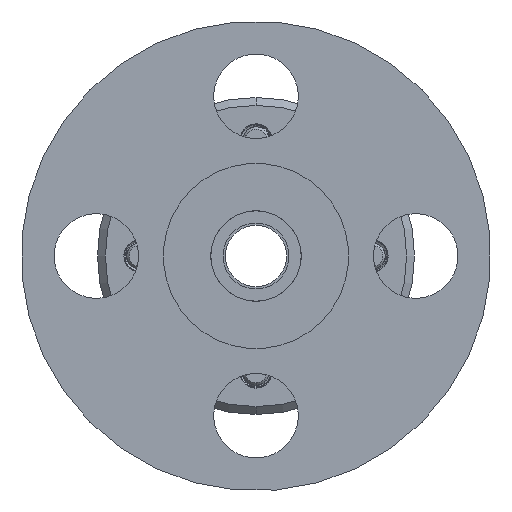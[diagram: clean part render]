
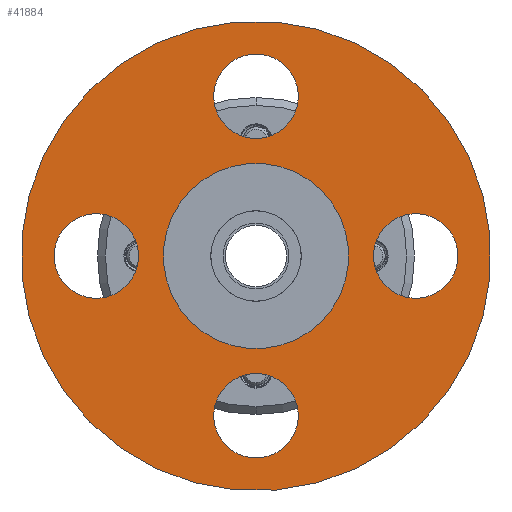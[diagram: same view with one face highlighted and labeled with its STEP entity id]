
A CAD part, front view. The second image highlights one B-rep face of the part: STEP entity #41884.
In plain terms, the highlighted planar face has unit normal (0, -1, 0).
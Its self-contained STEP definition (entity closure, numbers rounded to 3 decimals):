
#1542 = VERTEX_POINT ( 'NONE', #46189 ) ;
#5119 = AXIS2_PLACEMENT_3D ( 'NONE', #65738, #41642, #49123 ) ;
#6839 = EDGE_CURVE ( 'NONE', #101646, #36645, #31212, .T. ) ;
#7253 = CARTESIAN_POINT ( 'NONE',  ( 18.606, -36.524, 4.673 ) ) ;
#7531 = CARTESIAN_POINT ( 'NONE',  ( -11.62, -36.524, 34.899 ) ) ;
#8082 = ORIENTED_EDGE ( 'NONE', *, *, #38221, .F. ) ;
#9650 = ORIENTED_EDGE ( 'NONE', *, *, #46995, .F. ) ;
#10399 = CIRCLE ( 'NONE', #70694, 8.001 ) ;
#10949 = VERTEX_POINT ( 'NONE', #70968 ) ;
#11132 = DIRECTION ( 'NONE',  ( 0., -1., 0. ) ) ;
#12227 = CIRCLE ( 'NONE', #96356, 8.001 ) ;
#13539 = DIRECTION ( 'NONE',  ( 0.707, 0., -0.707 ) ) ;
#13616 = EDGE_LOOP ( 'NONE', ( #59236, #24873 ) ) ;
#15506 = AXIS2_PLACEMENT_3D ( 'NONE', #58091, #93070, #67263 ) ;
#15562 = AXIS2_PLACEMENT_3D ( 'NONE', #65823, #64685, #109331 ) ;
#16966 = DIRECTION ( 'NONE',  ( 0.707, 0., -0.707 ) ) ;
#17446 = CARTESIAN_POINT ( 'NONE',  ( 18.606, -36.524, 4.673 ) ) ;
#17449 = ORIENTED_EDGE ( 'NONE', *, *, #51668, .T. ) ;
#21360 = VERTEX_POINT ( 'NONE', #109256 ) ;
#21895 = EDGE_LOOP ( 'NONE', ( #17449, #30954 ) ) ;
#23648 = ORIENTED_EDGE ( 'NONE', *, *, #90119, .F. ) ;
#24466 = CIRCLE ( 'NONE', #75633, 8.001 ) ;
#24873 = ORIENTED_EDGE ( 'NONE', *, *, #49577, .F. ) ;
#24972 = CARTESIAN_POINT ( 'NONE',  ( -11.62, -36.524, 34.899 ) ) ;
#25541 = DIRECTION ( 'NONE',  ( 0.707, 0., -0.707 ) ) ;
#25679 = EDGE_CURVE ( 'NONE', #10949, #21360, #108729, .T. ) ;
#25909 = EDGE_LOOP ( 'NONE', ( #8082, #111161 ) ) ;
#26030 = CARTESIAN_POINT ( 'NONE',  ( 30.998, -36.524, 22.507 ) ) ;
#26100 = PLANE ( 'NONE',  #104776 ) ;
#26678 = FACE_BOUND ( 'NONE', #25909, .T. ) ;
#27172 = DIRECTION ( 'NONE',  ( 0.707, 0., -0.707 ) ) ;
#30954 = ORIENTED_EDGE ( 'NONE', *, *, #113075, .T. ) ;
#31212 = CIRCLE ( 'NONE', #45706, 8.001 ) ;
#36645 = VERTEX_POINT ( 'NONE', #80836 ) ;
#38221 = EDGE_CURVE ( 'NONE', #84229, #103913, #96322, .T. ) ;
#39179 = VERTEX_POINT ( 'NONE', #42859 ) ;
#41642 = DIRECTION ( 'NONE',  ( 0., -1., 0. ) ) ;
#41884 = ADVANCED_FACE ( 'NONE', ( #106192, #112566, #86798, #52418, #26678, #95434 ), #26100, .T. ) ;
#42508 = ORIENTED_EDGE ( 'NONE', *, *, #6839, .F. ) ;
#42859 = CARTESIAN_POINT ( 'NONE',  ( -12.825, -36.524, 66.33 ) ) ;
#42895 = CIRCLE ( 'NONE', #15506, 17.526 ) ;
#43017 = EDGE_CURVE ( 'NONE', #98546, #104495, #44395, .T. ) ;
#44395 = CIRCLE ( 'NONE', #59039, 8.001 ) ;
#44907 = ORIENTED_EDGE ( 'NONE', *, *, #59691, .F. ) ;
#45082 = EDGE_LOOP ( 'NONE', ( #23648, #44907 ) ) ;
#45706 = AXIS2_PLACEMENT_3D ( 'NONE', #50721, #67885, #77048 ) ;
#45733 = CARTESIAN_POINT ( 'NONE',  ( 18.606, -36.524, 34.899 ) ) ;
#46189 = CARTESIAN_POINT ( 'NONE',  ( 12.948, -36.524, 10.331 ) ) ;
#46995 = EDGE_CURVE ( 'NONE', #21360, #10949, #12227, .T. ) ;
#47416 = DIRECTION ( 'NONE',  ( 0., -1., 0. ) ) ;
#48637 = AXIS2_PLACEMENT_3D ( 'NONE', #45733, #64063, #81256 ) ;
#49116 = CARTESIAN_POINT ( 'NONE',  ( 54.489, -36.524, 29.242 ) ) ;
#49123 = DIRECTION ( 'NONE',  ( 0.707, 0., -0.707 ) ) ;
#49172 = DIRECTION ( 'NONE',  ( 0., -1., 0. ) ) ;
#49577 = EDGE_CURVE ( 'NONE', #104495, #98546, #24466, .T. ) ;
#50721 = CARTESIAN_POINT ( 'NONE',  ( 18.606, -36.524, 65.125 ) ) ;
#51459 = CARTESIAN_POINT ( 'NONE',  ( 6.213, -36.524, 47.292 ) ) ;
#51668 = EDGE_CURVE ( 'NONE', #67634, #39179, #52234, .T. ) ;
#52234 = CIRCLE ( 'NONE', #48637, 44.45 ) ;
#52418 = FACE_BOUND ( 'NONE', #13616, .T. ) ;
#56008 = CARTESIAN_POINT ( 'NONE',  ( 48.832, -36.524, 34.899 ) ) ;
#58091 = CARTESIAN_POINT ( 'NONE',  ( 18.606, -36.524, 34.899 ) ) ;
#58325 = CARTESIAN_POINT ( 'NONE',  ( 18.606, -36.524, 34.899 ) ) ;
#58767 = DIRECTION ( 'NONE',  ( 0., -1., 0. ) ) ;
#59039 = AXIS2_PLACEMENT_3D ( 'NONE', #56008, #47416, #65154 ) ;
#59236 = ORIENTED_EDGE ( 'NONE', *, *, #43017, .F. ) ;
#59691 = EDGE_CURVE ( 'NONE', #1542, #101066, #68103, .T. ) ;
#62784 = EDGE_CURVE ( 'NONE', #103913, #84229, #42895, .T. ) ;
#64063 = DIRECTION ( 'NONE',  ( 0., -1., 0. ) ) ;
#64685 = DIRECTION ( 'NONE',  ( 0., -1., 0. ) ) ;
#65154 = DIRECTION ( 'NONE',  ( 0.707, 0., -0.707 ) ) ;
#65738 = CARTESIAN_POINT ( 'NONE',  ( 18.606, -36.524, 34.899 ) ) ;
#65823 = CARTESIAN_POINT ( 'NONE',  ( 18.606, -36.524, 65.125 ) ) ;
#65827 = EDGE_LOOP ( 'NONE', ( #76226, #42508 ) ) ;
#67263 = DIRECTION ( 'NONE',  ( 0.707, 0., -0.707 ) ) ;
#67481 = DIRECTION ( 'NONE',  ( 0.707, 0., -0.707 ) ) ;
#67634 = VERTEX_POINT ( 'NONE', #85761 ) ;
#67885 = DIRECTION ( 'NONE',  ( 0., -1., 0. ) ) ;
#68103 = CIRCLE ( 'NONE', #111996, 8.001 ) ;
#69036 = DIRECTION ( 'NONE',  ( 0., -1., 0. ) ) ;
#69149 = EDGE_LOOP ( 'NONE', ( #9650, #105857 ) ) ;
#70694 = AXIS2_PLACEMENT_3D ( 'NONE', #17446, #11132, #27172 ) ;
#70968 = CARTESIAN_POINT ( 'NONE',  ( -17.278, -36.524, 40.557 ) ) ;
#74317 = CARTESIAN_POINT ( 'NONE',  ( 12.948, -36.524, 70.783 ) ) ;
#74833 = CIRCLE ( 'NONE', #5119, 44.45 ) ;
#75633 = AXIS2_PLACEMENT_3D ( 'NONE', #109110, #91993, #13539 ) ;
#76226 = ORIENTED_EDGE ( 'NONE', *, *, #93284, .F. ) ;
#77048 = DIRECTION ( 'NONE',  ( 0.707, 0., -0.707 ) ) ;
#77980 = AXIS2_PLACEMENT_3D ( 'NONE', #58325, #49172, #67481 ) ;
#78771 = DIRECTION ( 'NONE',  ( 0.707, 0., -0.707 ) ) ;
#78785 = CARTESIAN_POINT ( 'NONE',  ( 18.606, -36.524, 34.899 ) ) ;
#78935 = CARTESIAN_POINT ( 'NONE',  ( 24.263, -36.524, -0.984 ) ) ;
#80836 = CARTESIAN_POINT ( 'NONE',  ( 24.263, -36.524, 59.468 ) ) ;
#81256 = DIRECTION ( 'NONE',  ( 0.707, 0., -0.707 ) ) ;
#82556 = CARTESIAN_POINT ( 'NONE',  ( 43.174, -36.524, 40.557 ) ) ;
#84229 = VERTEX_POINT ( 'NONE', #51459 ) ;
#85761 = CARTESIAN_POINT ( 'NONE',  ( 50.036, -36.524, 3.468 ) ) ;
#86798 = FACE_BOUND ( 'NONE', #45082, .T. ) ;
#88692 = CIRCLE ( 'NONE', #15562, 8.001 ) ;
#90119 = EDGE_CURVE ( 'NONE', #101066, #1542, #10399, .T. ) ;
#91993 = DIRECTION ( 'NONE',  ( 0., -1., 0. ) ) ;
#93070 = DIRECTION ( 'NONE',  ( 0., -1., 0. ) ) ;
#93284 = EDGE_CURVE ( 'NONE', #36645, #101646, #88692, .T. ) ;
#95161 = DIRECTION ( 'NONE',  ( 0., -1., 0. ) ) ;
#95434 = FACE_OUTER_BOUND ( 'NONE', #21895, .T. ) ;
#95701 = DIRECTION ( 'NONE',  ( 0.707, 0., -0.707 ) ) ;
#95979 = AXIS2_PLACEMENT_3D ( 'NONE', #7531, #95161, #95701 ) ;
#96322 = CIRCLE ( 'NONE', #77980, 17.526 ) ;
#96356 = AXIS2_PLACEMENT_3D ( 'NONE', #24972, #111973, #78771 ) ;
#98546 = VERTEX_POINT ( 'NONE', #49116 ) ;
#101066 = VERTEX_POINT ( 'NONE', #78935 ) ;
#101646 = VERTEX_POINT ( 'NONE', #74317 ) ;
#103913 = VERTEX_POINT ( 'NONE', #26030 ) ;
#104495 = VERTEX_POINT ( 'NONE', #82556 ) ;
#104776 = AXIS2_PLACEMENT_3D ( 'NONE', #78785, #69036, #16966 ) ;
#105857 = ORIENTED_EDGE ( 'NONE', *, *, #25679, .F. ) ;
#106192 = FACE_BOUND ( 'NONE', #65827, .T. ) ;
#108729 = CIRCLE ( 'NONE', #95979, 8.001 ) ;
#109110 = CARTESIAN_POINT ( 'NONE',  ( 48.832, -36.524, 34.899 ) ) ;
#109256 = CARTESIAN_POINT ( 'NONE',  ( -5.963, -36.524, 29.242 ) ) ;
#109331 = DIRECTION ( 'NONE',  ( 0.707, 0., -0.707 ) ) ;
#111161 = ORIENTED_EDGE ( 'NONE', *, *, #62784, .F. ) ;
#111973 = DIRECTION ( 'NONE',  ( 0., -1., 0. ) ) ;
#111996 = AXIS2_PLACEMENT_3D ( 'NONE', #7253, #58767, #25541 ) ;
#112566 = FACE_BOUND ( 'NONE', #69149, .T. ) ;
#113075 = EDGE_CURVE ( 'NONE', #39179, #67634, #74833, .T. ) ;
